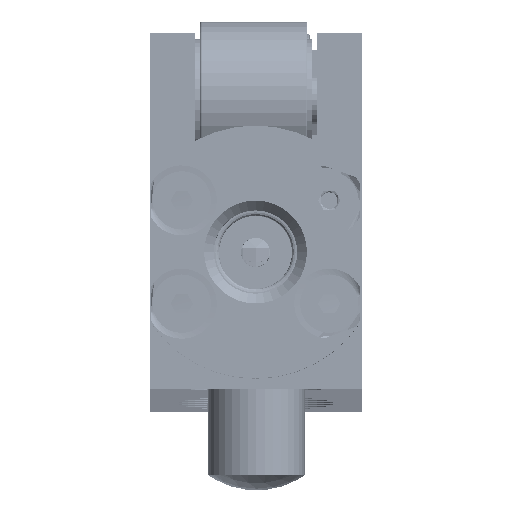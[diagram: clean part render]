
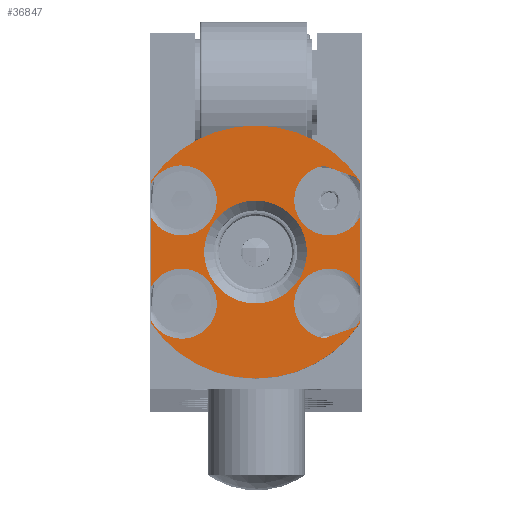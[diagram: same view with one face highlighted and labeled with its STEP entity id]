
A CAD part, top view. The second image highlights one B-rep face of the part: STEP entity #36847.
In plain terms, the highlighted planar face has unit normal (0, 0, 1).
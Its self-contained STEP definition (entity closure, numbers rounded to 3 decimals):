
#1338=FACE_BOUND('',#5796,.T.);
#1673=PLANE('',#40399);
#3550=FACE_OUTER_BOUND('',#5795,.T.);
#5795=EDGE_LOOP('',(#28061,#28062,#28063,#28064,#28065,#28066,#28067,#28068,
#28069,#28070,#28071,#28072,#28073,#28074,#28075,#28076));
#5796=EDGE_LOOP('',(#28077));
#7736=LINE('',#66246,#9122);
#7737=LINE('',#66249,#9123);
#7738=LINE('',#66253,#9124);
#7739=LINE('',#66257,#9125);
#7740=LINE('',#66261,#9126);
#7741=LINE('',#66265,#9127);
#7742=LINE('',#66269,#9128);
#7743=LINE('',#66272,#9129);
#9122=VECTOR('',#49154,10.);
#9123=VECTOR('',#49157,10.);
#9124=VECTOR('',#49160,10.);
#9125=VECTOR('',#49163,10.);
#9126=VECTOR('',#49166,10.);
#9127=VECTOR('',#49169,10.);
#9128=VECTOR('',#49172,10.);
#9129=VECTOR('',#49175,10.);
#11049=CIRCLE('',#40392,3.6);
#11052=CIRCLE('',#40395,3.6);
#11054=CIRCLE('',#40400,3.6);
#11055=CIRCLE('',#40401,3.6);
#11056=CIRCLE('',#40402,13.);
#11057=CIRCLE('',#40403,3.6);
#11058=CIRCLE('',#40404,3.6);
#11059=CIRCLE('',#40405,13.);
#11060=CIRCLE('',#40406,5.283);
#15090=VERTEX_POINT('',#66220);
#15091=VERTEX_POINT('',#66221);
#15092=VERTEX_POINT('',#66225);
#15096=VERTEX_POINT('',#66236);
#15098=VERTEX_POINT('',#66248);
#15099=VERTEX_POINT('',#66250);
#15100=VERTEX_POINT('',#66252);
#15101=VERTEX_POINT('',#66254);
#15102=VERTEX_POINT('',#66256);
#15103=VERTEX_POINT('',#66258);
#15104=VERTEX_POINT('',#66260);
#15105=VERTEX_POINT('',#66262);
#15106=VERTEX_POINT('',#66264);
#15107=VERTEX_POINT('',#66266);
#15108=VERTEX_POINT('',#66268);
#15109=VERTEX_POINT('',#66270);
#15110=VERTEX_POINT('',#66273);
#19829=EDGE_CURVE('',#15092,#15090,#11049,.T.);
#19835=EDGE_CURVE('',#15091,#15096,#11052,.T.);
#19838=EDGE_CURVE('',#15096,#15092,#7736,.T.);
#19839=EDGE_CURVE('',#15090,#15098,#7737,.T.);
#19840=EDGE_CURVE('',#15098,#15099,#11054,.T.);
#19841=EDGE_CURVE('',#15099,#15100,#7738,.T.);
#19842=EDGE_CURVE('',#15100,#15101,#11055,.T.);
#19843=EDGE_CURVE('',#15101,#15102,#7739,.T.);
#19844=EDGE_CURVE('',#15103,#15102,#11056,.T.);
#19845=EDGE_CURVE('',#15103,#15104,#7740,.T.);
#19846=EDGE_CURVE('',#15104,#15105,#11057,.T.);
#19847=EDGE_CURVE('',#15105,#15106,#7741,.T.);
#19848=EDGE_CURVE('',#15106,#15107,#11058,.T.);
#19849=EDGE_CURVE('',#15107,#15108,#7742,.T.);
#19850=EDGE_CURVE('',#15109,#15108,#11059,.T.);
#19851=EDGE_CURVE('',#15109,#15091,#7743,.T.);
#19852=EDGE_CURVE('',#15110,#15110,#11060,.T.);
#28061=ORIENTED_EDGE('',*,*,#19835,.T.);
#28062=ORIENTED_EDGE('',*,*,#19838,.T.);
#28063=ORIENTED_EDGE('',*,*,#19829,.T.);
#28064=ORIENTED_EDGE('',*,*,#19839,.T.);
#28065=ORIENTED_EDGE('',*,*,#19840,.T.);
#28066=ORIENTED_EDGE('',*,*,#19841,.T.);
#28067=ORIENTED_EDGE('',*,*,#19842,.T.);
#28068=ORIENTED_EDGE('',*,*,#19843,.T.);
#28069=ORIENTED_EDGE('',*,*,#19844,.F.);
#28070=ORIENTED_EDGE('',*,*,#19845,.T.);
#28071=ORIENTED_EDGE('',*,*,#19846,.T.);
#28072=ORIENTED_EDGE('',*,*,#19847,.T.);
#28073=ORIENTED_EDGE('',*,*,#19848,.T.);
#28074=ORIENTED_EDGE('',*,*,#19849,.T.);
#28075=ORIENTED_EDGE('',*,*,#19850,.F.);
#28076=ORIENTED_EDGE('',*,*,#19851,.T.);
#28077=ORIENTED_EDGE('',*,*,#19852,.F.);
#36847=ADVANCED_FACE('',(#3550,#1338),#1673,.T.);
#40392=AXIS2_PLACEMENT_3D('',#66226,#49138,#49139);
#40395=AXIS2_PLACEMENT_3D('',#66240,#49145,#49146);
#40399=AXIS2_PLACEMENT_3D('',#66247,#49155,#49156);
#40400=AXIS2_PLACEMENT_3D('',#66251,#49158,#49159);
#40401=AXIS2_PLACEMENT_3D('',#66255,#49161,#49162);
#40402=AXIS2_PLACEMENT_3D('',#66259,#49164,#49165);
#40403=AXIS2_PLACEMENT_3D('',#66263,#49167,#49168);
#40404=AXIS2_PLACEMENT_3D('',#66267,#49170,#49171);
#40405=AXIS2_PLACEMENT_3D('',#66271,#49173,#49174);
#40406=AXIS2_PLACEMENT_3D('',#66274,#49176,#49177);
#49138=DIRECTION('center_axis',(0.,0.,-1.));
#49139=DIRECTION('ref_axis',(-0.342,0.94,0.));
#49145=DIRECTION('center_axis',(0.,0.,-1.));
#49146=DIRECTION('ref_axis',(-0.342,0.94,0.));
#49154=DIRECTION('',(-0.94,-0.342,0.));
#49155=DIRECTION('center_axis',(0.,0.,1.));
#49156=DIRECTION('ref_axis',(1.,0.,0.));
#49157=DIRECTION('',(0.,1.,0.));
#49158=DIRECTION('center_axis',(0.,0.,-1.));
#49159=DIRECTION('ref_axis',(-0.342,-0.94,0.));
#49160=DIRECTION('',(0.94,-0.342,0.));
#49161=DIRECTION('center_axis',(0.,0.,-1.));
#49162=DIRECTION('ref_axis',(-0.342,-0.94,0.));
#49163=DIRECTION('',(0.,1.,0.));
#49164=DIRECTION('center_axis',(0.,0.,-1.));
#49165=DIRECTION('ref_axis',(0.,1.,0.));
#49166=DIRECTION('',(0.,-1.,0.));
#49167=DIRECTION('center_axis',(0.,0.,-1.));
#49168=DIRECTION('ref_axis',(1.,0.,0.));
#49169=DIRECTION('',(0.,-1.,0.));
#49170=DIRECTION('center_axis',(0.,0.,-1.));
#49171=DIRECTION('ref_axis',(1.,0.,0.));
#49172=DIRECTION('',(0.,-1.,0.));
#49173=DIRECTION('center_axis',(0.,0.,-1.));
#49174=DIRECTION('ref_axis',(0.,1.,0.));
#49175=DIRECTION('',(0.,1.,0.));
#49176=DIRECTION('center_axis',(0.,0.,1.));
#49177=DIRECTION('ref_axis',(-1.,0.,0.));
#66220=CARTESIAN_POINT('',(10.7,-7.855,1056.));
#66221=CARTESIAN_POINT('',(10.7,-11.256,1056.));
#66225=CARTESIAN_POINT('',(7.014,-13.119,1056.));
#66226=CARTESIAN_POINT('Origin',(7.527,-9.556,1056.));
#66236=CARTESIAN_POINT('',(10.211,-11.955,1056.));
#66240=CARTESIAN_POINT('Origin',(7.527,-9.556,1056.));
#66246=CARTESIAN_POINT('',(8.106,-12.721,1056.));
#66247=CARTESIAN_POINT('Origin',(-0.05,2.25,1056.));
#66248=CARTESIAN_POINT('',(10.7,-0.645,1056.));
#66249=CARTESIAN_POINT('',(10.7,-4.655,1056.));
#66250=CARTESIAN_POINT('',(7.014,4.619,1056.));
#66251=CARTESIAN_POINT('Origin',(7.527,1.056,1056.));
#66252=CARTESIAN_POINT('',(10.211,3.455,1056.));
#66253=CARTESIAN_POINT('',(6.017,4.982,1056.));
#66254=CARTESIAN_POINT('',(10.7,2.756,1056.));
#66255=CARTESIAN_POINT('Origin',(7.527,1.056,1056.));
#66256=CARTESIAN_POINT('',(10.7,3.06,1056.));
#66257=CARTESIAN_POINT('',(10.7,-4.655,1056.));
#66258=CARTESIAN_POINT('',(-10.8,3.06,1056.));
#66259=CARTESIAN_POINT('Origin',(-0.05,-4.25,1056.));
#66260=CARTESIAN_POINT('',(-10.8,2.756,1056.));
#66261=CARTESIAN_POINT('',(-10.8,2.655,1056.));
#66262=CARTESIAN_POINT('',(-10.8,-0.645,1056.));
#66263=CARTESIAN_POINT('Origin',(-7.627,1.056,1056.));
#66264=CARTESIAN_POINT('',(-10.8,-7.855,1056.));
#66265=CARTESIAN_POINT('',(-10.8,2.655,1056.));
#66266=CARTESIAN_POINT('',(-10.8,-11.256,1056.));
#66267=CARTESIAN_POINT('Origin',(-7.627,-9.556,1056.));
#66268=CARTESIAN_POINT('',(-10.8,-11.56,1056.));
#66269=CARTESIAN_POINT('',(-10.8,2.655,1056.));
#66270=CARTESIAN_POINT('',(10.7,-11.56,1056.));
#66271=CARTESIAN_POINT('Origin',(-0.05,-4.25,1056.));
#66272=CARTESIAN_POINT('',(10.7,-4.655,1056.));
#66273=CARTESIAN_POINT('',(5.233,-4.25,1056.));
#66274=CARTESIAN_POINT('Origin',(-0.05,-4.25,1056.));
